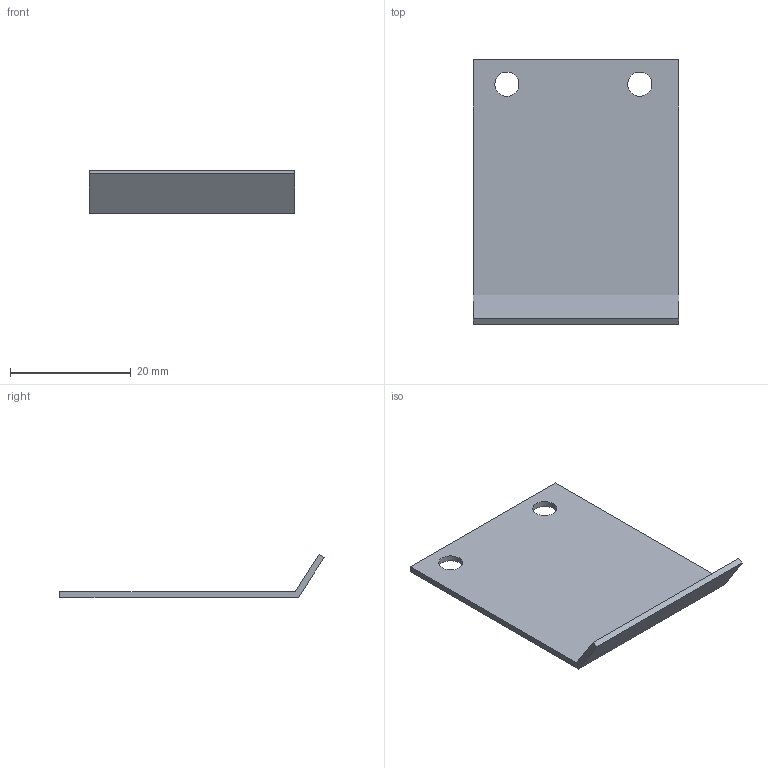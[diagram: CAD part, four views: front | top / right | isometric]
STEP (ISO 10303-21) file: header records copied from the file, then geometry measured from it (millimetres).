
FILE_DESCRIPTION(/* description */ ('STEP AP242','CAx-IF Rec.Pracs.---Representation and Presentation of Product Manufacturing Information (PMI)---4.0---2014-10-13','CAx-IF Rec.Pracs.---3D Tessellated Geometry---0.4---2014-09-14','2;1'),/* implementation_level */ '2;1');
FILE_NAME(/* name */ '68987400389c677d54b52caf',/* time_stamp */ '2025-08-10T10:27:13Z',/* author */ (''),/* organization */ (''),/* preprocessor_version */ 'ST-DEVELOPER v20',/* originating_system */ 'ONSHAPE BY PTC INC, 1.202',/* authorisation */ ' ');
FILE_SCHEMA (('AP242_MANAGED_MODEL_BASED_3D_ENGINEERING_MIM_LF { 1 0 10303 442 1 1 4 }'));
Length unit declared in the file: metre
Products named in the file (1): Part 1
Bounding box: 34 x 43.74 x 7.14 mm (x, y, z)
Volume: 1565.9 mm3; surface area: 3318.5 mm2
Topology: 1 solids, 1 shells, 10 faces, 24 edges, 16 vertices
Faces by surface type: plane 8, cylinder 2
Full cylindrical faces by diameter (mm): 4 x2
Entity records: 312 total; most frequent: CARTESIAN_POINT 49, DIRECTION 48, ORIENTED_EDGE 44, EDGE_CURVE 22, LINE 18, VECTOR 18, VERTEX_POINT 16, EDGE_LOOP 16
